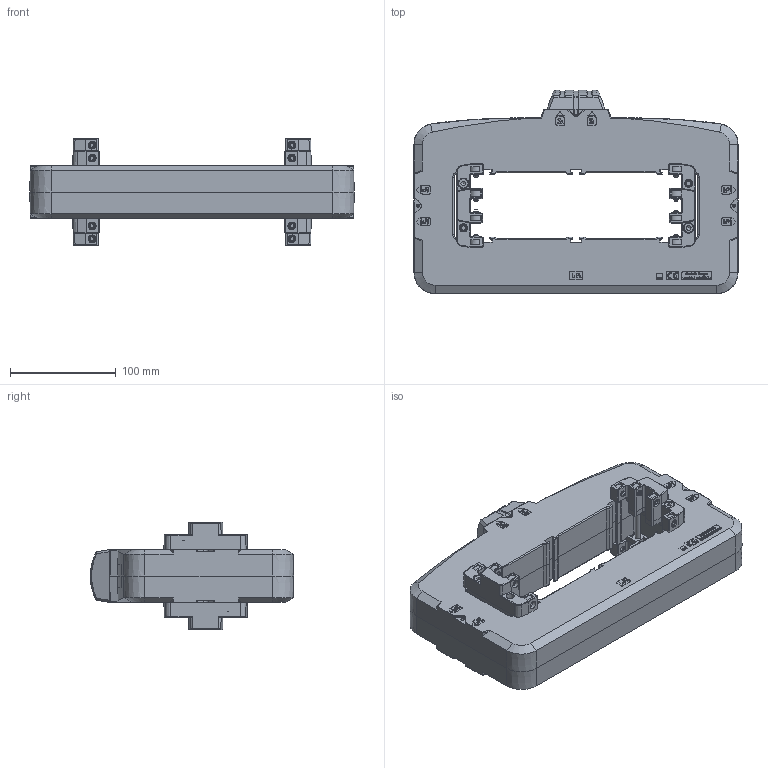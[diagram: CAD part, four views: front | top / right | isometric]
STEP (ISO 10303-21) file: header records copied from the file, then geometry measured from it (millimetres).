
FILE_DESCRIPTION(/* description */ (''),/* implementation_level */ '2;1');
FILE_NAME(/* name */ 'ASK205.5.stp',/* time_stamp */ '2024-03-06T10:04:13+01:00',/* author */ ('JDI'),/* organization */ (''),/* preprocessor_version */ 'ST-DEVELOPER v19.2',/* originating_system */ 'Autodesk Inventor 2023',/* authorisation */ '');
FILE_SCHEMA (('AUTOMOTIVE_DESIGN { 1 0 10303 214 3 1 1 }'));
Products named in the file (1): ASK205.5
Bounding box: 306 x 192 x 101 mm (x, y, z)
Volume: 417489.6 mm3; surface area: 365086.4 mm2
Topology: 18 solids, 21 shells, 3891 faces, 10038 edges, 6434 vertices
Faces by surface type: plane 2484, cylinder 668, bspline 447, cone 268, torus 24
Full cylindrical faces by diameter (mm): 2 x3, 3 x5, 4.2 x2, 5 x20, 7.35 x16, 9.7 x4
Entity records: 145502 total; most frequent: CARTESIAN_POINT 48930, ORIENTED_EDGE 20008, DIRECTION 17491, EDGE_CURVE 10010, LINE 7333, VECTOR 7333, VERTEX_POINT 6434, AXIS2_PLACEMENT_3D 5079
